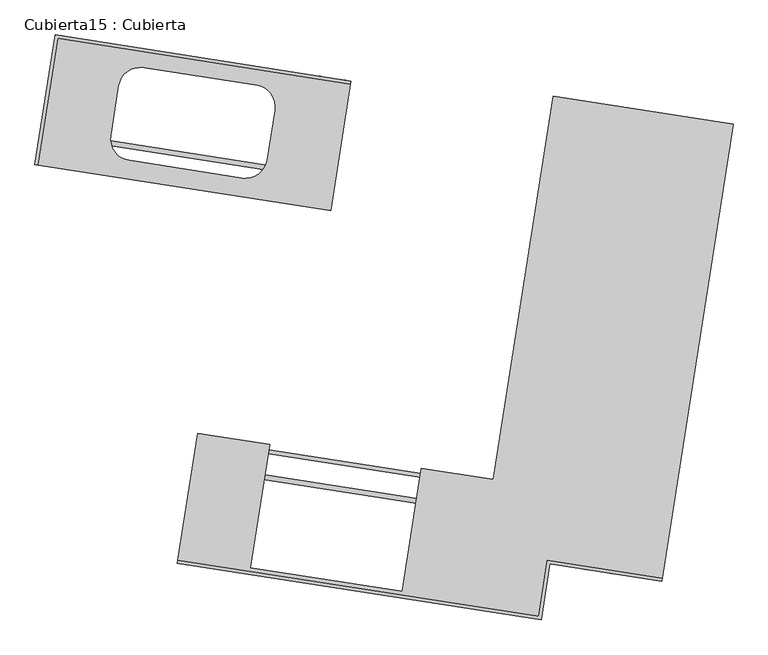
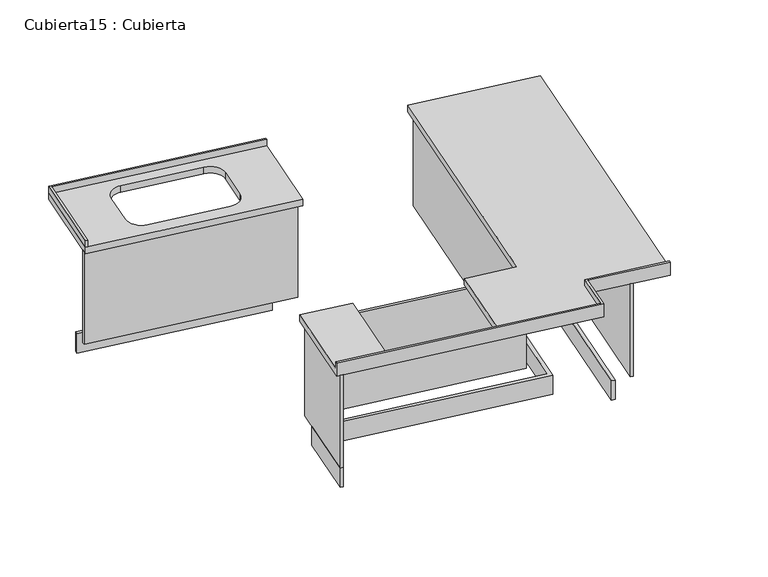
"""IFC4 building model written with IfcOpenShell, lengths in millimetres: furniture geometry, Cubierta15 : Cubierta."""

from ifc_helpers import new_model, si_unit, frame, origin, place, context, project, spatial, polyline, circle_curve, outline, extrude, faceted_brep, source, transform, mapped, element, save
from ifc_brep_helpers import plane_surface, revolved_surface, advanced_brep


def cubierta15_cubierta_e4229e1b(model_context):
    return source(origin(), model_context, "Body", "SolidModel", [
        extrude(outline(polyline([(-34707.8838651, -75205.4971561), (-34722.7049048, -75203.187008), (-34622.5984868, -74560.9419572), (-33160.25591, -74788.8765703), (-33162.5660581, -74803.6976099), (-34610.0875953, -74578.0731449), (-34707.8838651, -75205.4971561)])), frame((0.0, 0.0, 7320.0), z_axis=(0.0, 0.0, 1.0), x_axis=(1.0, 0.0, 0.0)), (0.0, 0.0, 1.0), 50.0),
        extrude(outline(polyline([(-34699.6034237, -75054.9766115), (-34695.7531768, -75030.2748788), (-33406.3227152, -75231.2577662), (-33333.1680252, -74761.9248446), (-33308.4662925, -74765.7750914), (-33385.4712293, -75259.8097457), (-34699.6034237, -75054.9766115)])), frame((0.0, 0.0, 6400.0), z_axis=(0.0, 0.0, 1.0), x_axis=(1.0, 0.0, 0.0)), (0.0, 0.0, 1.0), 150.0),
        extrude(outline(polyline([(-34718.8546579, -75178.4852751), (-34715.7744604, -75158.7238889), (-33297.8949887, -75379.7280599), (-33204.719015, -74781.9461282), (-33184.9576289, -74785.0263256), (-33281.2138, -75402.5696435), (-34718.8546579, -75178.4852751)])), frame((0.0, 0.0, 6550.0), z_axis=(0.0, 0.0, 1.0), x_axis=(1.0, 0.0, 0.0)), (0.0, 0.0, 1.0), 720.0),
        extrude(outline(polyline([(-31664.2309062, -75092.9064872), (-31993.8120355, -77207.3748033), (-32018.5137682, -77203.5245564), (-31692.7828858, -75113.757973), (-32013.9054072, -75063.7047647), (-32309.6043632, -76960.7978276), (-33900.3959544, -76712.8419302), (-33973.5506444, -77182.1748518), (-33993.3120306, -77179.0946543), (-33916.3070937, -76685.06), (-32330.455849, -76932.245848), (-32034.7568931, -75035.1527851), (-31664.2309062, -75092.9064872)])), frame((0.0, 0.0, 6400.0), z_axis=(0.0, 0.0, 1.0), x_axis=(1.0, 0.0, 0.0)), (0.0, 0.0, 1.0), 150.0),
        extrude(outline(polyline([(-32139.0143225, -74892.3928873), (-31521.4710084, -74988.6490578), (-31870.3033719, -77226.6260375), (-31890.0647581, -77223.54584), (-31544.3125921, -75005.3302465), (-32122.3331338, -74915.2344709), (-32418.0320897, -76812.3275339), (-33880.3746708, -76584.39292), (-33973.5506444, -77182.1748518), (-33993.3120306, -77179.0946543), (-33897.0558595, -76561.5513364), (-32434.7132784, -76789.4859502), (-32139.0143225, -74892.3928873)])), frame((0.0, 0.0, 6550.0), z_axis=(0.0, 0.0, 1.0), x_axis=(1.0, 0.0, 0.0)), (0.0, 0.0, 1.0), 720.0),
        faceted_brep([(-31270.6034361, -75002.4498036, 7320.0), (-32159.8658099, -74863.8409179, 7320.0), (-32455.5647643, -76760.9339706, 7320.0), (-32811.2697176, -76705.4904158, 7320.0), (-32906.2529889, -77314.867289, 7320.0), (-33657.1856635, -77197.819785, 7320.0), (-33562.2023922, -76588.4429117, 7320.0), (-33917.9073454, -76532.9993568, 7320.0), (-34015.7036152, -77160.4233678, 7320.0), (-32232.2385244, -77438.4111882, 7320.0), (-32189.1157606, -77161.7517871, 7320.0), (-31620.9758966, -77250.3074663, 7320.0), (-32219.7276329, -77455.542376, 7270.0), (-34018.0137633, -77175.2444075, 7270.0), (-33917.9073454, -76532.9993568, 7270.0), (-33562.2023922, -76588.4429117, 7270.0), (-33657.1856635, -77197.819785, 7270.0), (-32906.2529889, -77314.867289, 7270.0), (-32811.2697176, -76705.4904158, 7270.0), (-32455.5647643, -76760.9339706, 7270.0), (-32159.8658099, -74863.8409179, 7270.0), (-31270.6034361, -75002.4498036, 7270.0), (-31623.2860447, -77265.1285059, 7270.0), (-32176.6048691, -77178.8829748, 7270.0), (-31620.9758966, -77250.3074663, 7370.0), (-31623.2860447, -77265.1285059, 7370.0), (-32232.2385244, -77438.4111882, 7370.0), (-34015.7036152, -77160.4233678, 7370.0), (-32219.7276329, -77455.5423759, 7370.0), (-34018.0137633, -77175.2444075, 7370.0), (-32189.1157606, -77161.7517871, 7370.0), (-32176.6048691, -77178.8829748, 7370.0)], [[[0, 1, 2, 3, 4, 5, 6, 7, 8, 9, 10, 11]], [[12, 13, 14, 15, 16, 17, 18, 19, 20, 21, 22, 23]], [[22, 21, 0, 11, 24, 25]], [[26, 9, 8, 27]], [[28, 29, 13, 12]], [[27, 8, 7, 14, 13, 29]], [[3, 2, 19, 18]], [[2, 1, 20, 19]], [[1, 0, 21, 20]], [[7, 6, 15, 14]], [[6, 5, 16, 15]], [[5, 4, 17, 16]], [[4, 3, 18, 17]], [[25, 24, 30, 26, 27, 29, 28, 31]], [[24, 11, 10, 30]], [[22, 25, 31, 23]], [[9, 26, 30, 10]], [[28, 12, 23, 31]]]),
        advanced_brep(
        [(-33260.3623141, -75431.1216232, 7320.0), (-33160.2559, -74788.876597, 7320.0), (-34622.5984907, -74560.9419818, 7320.0), (-34722.7049048, -75203.187008, 7320.0), (-34307.0821622, -74812.5362822, 7320.0), (-34184.8796897, -74723.2919227, 7320.0), (-33626.6205303, -74810.3075014, 7320.0), (-33537.3761707, -74932.5099739, 7320.0), (-33575.8786392, -75179.5273011, 7320.0), (-33698.0811117, -75268.7716606, 7320.0), (-34256.3402711, -75181.7560819, 7320.0), (-34345.5846307, -75059.5536094, 7320.0), (-33260.3623141, -75431.1216232, 7270.0), (-34722.7049048, -75203.187008, 7270.0), (-34622.5984907, -74560.9419818, 7270.0), (-33160.2559, -74788.876597, 7270.0), (-34307.0821622, -74812.5362822, 7270.0), (-34345.5846307, -75059.5536094, 7270.0), (-34256.3402711, -75181.7560819, 7270.0), (-33698.0811117, -75268.7716606, 7270.0), (-33575.8786392, -75179.5273011, 7270.0), (-33537.3761707, -74932.5099739, 7270.0), (-33626.6205303, -74810.3075014, 7270.0), (-34184.8796897, -74723.2919227, 7270.0)],
        [
            (0, 1),
            (1, 2),
            (2, 3),
            (3, 0),
            (4, 5, circle_curve(frame((-34201.3587462, -74829.0153387, 7320.0), z_axis=(0.0, 0.0, -1.0), x_axis=(0.9880693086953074, -0.15400987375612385, 0.0)), 107.0)),
            (5, 6),
            (6, 7, circle_curve(frame((-33643.0995868, -74916.0309174, 7320.0), z_axis=(0.0, 0.0, -1.0), x_axis=(0.9880693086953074, -0.15400987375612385, 0.0)), 107.0)),
            (7, 8),
            (8, 9, circle_curve(frame((-33681.6020552, -75163.0482446, 7320.0), z_axis=(0.0, 0.0, -1.0), x_axis=(0.9880693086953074, -0.15400987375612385, 0.0)), 107.0)),
            (9, 10),
            (10, 11, circle_curve(frame((-34239.8612146, -75076.0326659, 7320.0), z_axis=(0.0, 0.0, -1.0), x_axis=(0.9880693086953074, -0.15400987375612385, 0.0)), 107.0)),
            (11, 4),
            (12, 13),
            (13, 14),
            (14, 15),
            (15, 12),
            (16, 17),
            (17, 18, circle_curve(frame((-34239.8612146, -75076.0326659, 7270.0), z_axis=(0.0, 0.0, 1.0), x_axis=(0.9880693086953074, -0.15400987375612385, 0.0)), 107.0)),
            (18, 19),
            (19, 20, circle_curve(frame((-33681.6020552, -75163.0482446, 7270.0), z_axis=(0.0, 0.0, 1.0), x_axis=(0.9880693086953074, -0.15400987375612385, 0.0)), 107.0)),
            (20, 21),
            (21, 22, circle_curve(frame((-33643.0995868, -74916.0309174, 7270.0), z_axis=(0.0, 0.0, 1.0), x_axis=(0.9880693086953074, -0.15400987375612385, 0.0)), 107.0)),
            (22, 23),
            (23, 16, circle_curve(frame((-34201.3587462, -74829.0153387, 7270.0), z_axis=(0.0, 0.0, 1.0), x_axis=(0.9880693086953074, -0.15400987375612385, 0.0)), 107.0)),
            (11, 17),
            (16, 4),
            (10, 18),
            (9, 19),
            (8, 20),
            (7, 21),
            (6, 22),
            (5, 23),
            (3, 13),
            (12, 0),
            (2, 14),
            (1, 15),
        ],
        [
            plane_surface(frame((-32219.7276329, -77455.5423759, 7320.0), z_axis=(0.0, 0.0, 1.0), x_axis=(0.15400987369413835, 0.9880693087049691, 0.0))),
            plane_surface(frame((-32219.7276329, -77455.5423759, 7270.0), z_axis=(0.0, 0.0, -1.0), x_axis=(-0.15400987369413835, -0.9880693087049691, 0.0))),
            plane_surface(frame((-34345.5846307, -75059.5536094, 7320.0), z_axis=(0.9880693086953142, -0.15400987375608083, 0.0), x_axis=(0.0, 0.0, -1.0))),
            revolved_surface(polyline([(-34134.1377985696, -75092.51172239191, 7270.0), (-34134.1377985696, -75092.51172239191, 7320.0)]), (-34239.8612146, -75076.0326659, 6420.0), (0.0, 0.0, -0.9999999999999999)),
            plane_surface(frame((-33698.0811117, -75268.7716606, 7320.0), z_axis=(0.1540098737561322, 0.9880693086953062, 0.0), x_axis=(0.0, 0.0, -1.0))),
            revolved_surface(polyline([(-33575.8786391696, -75179.5273010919, 7270.0), (-33575.8786391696, -75179.5273010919, 7320.0)]), (-33681.6020552, -75163.0482446, 6420.0), (0.0, 0.0, -0.9999999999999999)),
            plane_surface(frame((-33537.3761707, -74932.5099739, 7320.0), z_axis=(-0.9880693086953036, 0.1540098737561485, 0.0), x_axis=(0.0, 0.0, -1.0))),
            revolved_surface(polyline([(-33537.3761707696, -74932.50997389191, 7270.0), (-33537.3761707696, -74932.50997389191, 7320.0)]), (-33643.0995868, -74916.0309174, 6420.0), (0.0, 0.0, -0.9999999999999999)),
            plane_surface(frame((-34184.8796897, -74723.2919227, 7320.0), z_axis=(-0.15400987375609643, -0.9880693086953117, 0.0), x_axis=(0.0, 0.0, -1.0))),
            revolved_surface(polyline([(-34095.6353301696, -74845.49439519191, 7270.0), (-34095.6353301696, -74845.49439519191, 7320.0)]), (-34201.3587462, -74829.0153387, 6420.0), (0.0, 0.0, -0.9999999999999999)),
            plane_surface(frame((-34722.7049048, -75203.187008, 7320.0), z_axis=(-0.1540098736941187, -0.9880693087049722, 0.0), x_axis=(0.0, 0.0, -1.0))),
            plane_surface(frame((-34622.5984907, -74560.9419818, 7320.0), z_axis=(-0.9880693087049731, 0.15400987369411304, 0.0), x_axis=(0.0, 0.0, -1.0))),
            plane_surface(frame((-33160.2559, -74788.876597, 7320.0), z_axis=(0.15400987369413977, 0.988069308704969, 0.0), x_axis=(0.0, 0.0, -1.0))),
            plane_surface(frame((-33260.3623141, -75431.1216232, 7320.0), z_axis=(0.9880693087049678, -0.15400987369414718, 0.0), x_axis=(0.0, 0.0, -1.0))),
        ],
        [
            (0, [[1, 2, 3, 4], [5, 6, 7, 8, 9, 10, 11, 12]]),
            (1, [[13, 14, 15, 16], [17, 18, 19, 20, 21, 22, 23, 24]]),
            (2, [[-12, 25, -17, 26]]),
            (3, [[-11, 27, -18, -25]]),
            (4, [[-10, 28, -19, -27]]),
            (5, [[-9, 29, -20, -28]]),
            (6, [[-8, 30, -21, -29]]),
            (7, [[-7, 31, -22, -30]]),
            (8, [[-6, 32, -23, -31]]),
            (9, [[-5, -26, -24, -32]]),
            (10, [[-4, 33, -13, 34]]),
            (11, [[-3, 35, -14, -33]]),
            (12, [[-2, 36, -15, -35]]),
            (13, [[-1, -34, -16, -36]]),
        ],
    ),
    ])


if __name__ == "__main__":
    model = new_model("IFC4")
    model_context = context("Model", 3, world=origin())
    ifc_project = project(units=[si_unit("LENGTHUNIT", "METRE", prefix="MILLI")], contexts=[model_context])
    site = spatial("IfcSite", under=ifc_project)
    building = spatial("IfcBuilding", under=site)
    placement = place(None, origin())
    cubierta15_cubierta_shape = cubierta15_cubierta_e4229e1b(model_context)
    element("IfcFurniture", 1, ObjectType="Cubierta15 : Cubierta", at=placement, inside=building, context=model_context, shape_type="MappedRepresentation", body=[
        mapped(cubierta15_cubierta_shape, transform((0.0, 0.0, 0.0), x_axis=(1.0, 0.0, 0.0), y_axis=(0.0, 1.0, 0.0), z_axis=(0.0, 0.0, 1.0))),
    ])
    save(model, "model.ifc")
